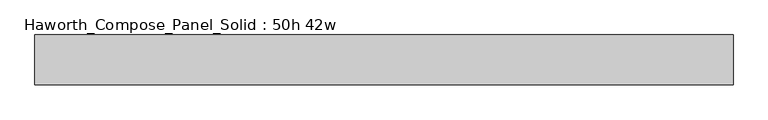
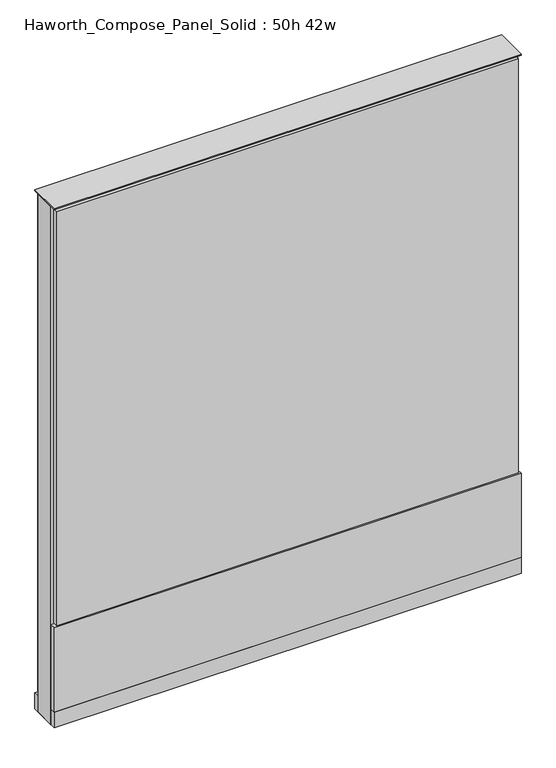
"""IFC4 building model written with IfcOpenShell, lengths in millimetres: furniture geometry, Haworth_Compose_Panel_Solid : 50h 42w."""

from ifc_helpers import new_model, si_unit, point, frame, frame_2d, origin, origin_with_axes, place, context, project, spatial, polyline, circle_curve, trimmed, segment, composite_curve, outline, extrude, source, transform, mapped, element, save


def haworth_compose_panel_solid_50h_42w_990ef98e(model_context):
    return source(origin(), model_context, "Body", "SweptSolid", [
        extrude(outline(composite_curve([segment(trimmed(circle_curve(frame_2d((-454.7597098, 0.0)), 12.7), [point((-467.4597098, 0.0))], [point((-442.0597098, 0.0))], False, "CARTESIAN"), True, "CONTINUOUS"), segment(trimmed(circle_curve(frame_2d((-454.7597098, 0.0)), 12.7), [point((-442.0597098, 0.0))], [point((-467.4597098, 0.0))], False, "CARTESIAN"), True, "CONTINUOUS")], self_intersect=False)), origin_with_axes(), (0.0, 0.0, 1.0), 12.7),
        extrude(outline(composite_curve([segment(trimmed(circle_curve(frame_2d((459.6402902, 0.0)), 12.7), [point((446.9402902, 0.0))], [point((472.3402902, 0.0))], False, "CARTESIAN"), True, "CONTINUOUS"), segment(trimmed(circle_curve(frame_2d((459.6402902, 0.0)), 12.7), [point((472.3402902, 0.0))], [point((446.9402902, 0.0))], False, "CARTESIAN"), True, "CONTINUOUS")], self_intersect=False)), origin_with_axes(), (0.0, 0.0, 1.0), 12.7),
        extrude(outline(polyline([(529.4902902, -38.1), (-524.6097098, -38.1), (-524.6097098, -25.4), (529.4902902, -25.4), (529.4902902, -38.1)])), frame((0.0, 0.0, 257.175), z_axis=(0.0, 0.0, 1.0), x_axis=(1.0, 0.0, 0.0)), (0.0, 0.0, 1.0), 1000.125),
        extrude(outline(polyline([(535.8402902, -38.1), (-530.9597098, -38.1), (-530.9597098, -25.4), (535.8402902, -25.4), (535.8402902, -38.1)])), frame((0.0, 0.0, 50.8), z_axis=(0.0, 0.0, 1.0), x_axis=(1.0, 0.0, 0.0)), (0.0, 0.0, 1.0), 203.2),
        extrude(outline(polyline([(529.4902902, 38.1), (529.4902902, 25.4), (-524.6097098, 25.4), (-524.6097098, 38.1), (529.4902902, 38.1)])), frame((0.0, 0.0, 53.975), z_axis=(0.0, 0.0, 1.0), x_axis=(1.0, 0.0, 0.0)), (0.0, 0.0, 1.0), 1203.325),
        extrude(outline(polyline([(535.8402902, -25.4), (-530.9597098, -25.4), (-530.9597098, 25.4), (535.8402902, 25.4), (535.8402902, -25.4)])), frame((0.0, 0.0, 12.7), z_axis=(0.0, 0.0, 1.0), x_axis=(1.0, 0.0, 0.0)), (0.0, 0.0, 1.0), 1250.95),
        extrude(outline(polyline([(-530.9597098, 38.1), (535.8402902, 38.1), (535.8402902, -38.1), (-530.9597098, -38.1), (-530.9597098, 38.1)])), frame((0.0, 0.0, 12.7), z_axis=(0.0, 0.0, 1.0), x_axis=(1.0, 0.0, 0.0)), (0.0, 0.0, 1.0), 38.1),
        extrude(outline(polyline([(-530.9597098, 38.1), (535.8402902, 38.1), (535.8402902, -38.1), (-530.9597098, -38.1), (-530.9597098, 38.1)])), frame((0.0, 0.0, 1263.65), z_axis=(0.0, 0.0, 1.0), x_axis=(1.0, 0.0, 0.0)), (0.0, 0.0, 1.0), 3.175),
    ])


if __name__ == "__main__":
    model = new_model("IFC4")
    model_context = context("Model", 3, world=origin())
    ifc_project = project(units=[si_unit("LENGTHUNIT", "METRE", prefix="MILLI")], contexts=[model_context])
    site = spatial("IfcSite", under=ifc_project)
    building = spatial("IfcBuilding", under=site)
    placement = place(None, origin())
    haworth_compose_panel_solid_50h_42w_shape = haworth_compose_panel_solid_50h_42w_990ef98e(model_context)
    element("IfcFurniture", 1, ObjectType="Haworth_Compose_Panel_Solid : 50h 42w", at=placement, inside=building, context=model_context, shape_type="MappedRepresentation", body=[
        mapped(haworth_compose_panel_solid_50h_42w_shape, transform((0.0, 0.0, 0.0), x_axis=(1.0, 0.0, 0.0), y_axis=(0.0, 1.0, 0.0), z_axis=(0.0, 0.0, 1.0))),
    ])
    save(model, "model.ifc")
